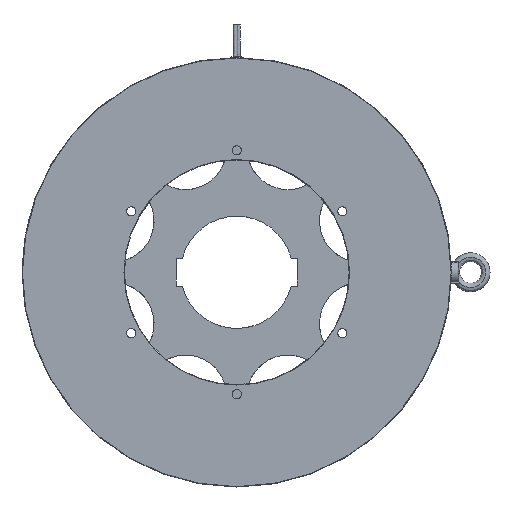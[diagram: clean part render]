
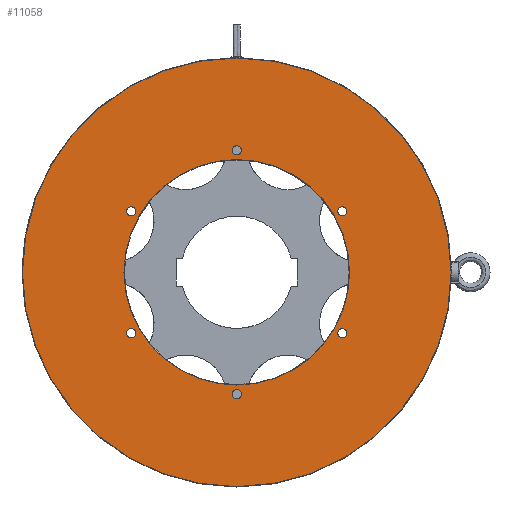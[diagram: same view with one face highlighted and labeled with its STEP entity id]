
A CAD part, left-side view. The second image highlights one B-rep face of the part: STEP entity #11058.
In plain terms, the highlighted planar face has unit normal (-1, 0, 0).
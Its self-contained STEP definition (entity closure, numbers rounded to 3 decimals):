
#164=FACE_BOUND('',#2125,.T.);
#165=FACE_BOUND('',#2126,.T.);
#166=FACE_BOUND('',#2127,.T.);
#167=FACE_BOUND('',#2128,.T.);
#168=FACE_BOUND('',#2129,.T.);
#169=FACE_BOUND('',#2130,.T.);
#170=FACE_BOUND('',#2131,.T.);
#1296=PLANE('',#11820);
#1537=FACE_OUTER_BOUND('',#2124,.T.);
#2124=EDGE_LOOP('',(#7228,#7229));
#2125=EDGE_LOOP('',(#7230));
#2126=EDGE_LOOP('',(#7231));
#2127=EDGE_LOOP('',(#7232));
#2128=EDGE_LOOP('',(#7233));
#2129=EDGE_LOOP('',(#7234));
#2130=EDGE_LOOP('',(#7235));
#2131=EDGE_LOOP('',(#7236));
#2921=CIRCLE('',#11793,130.5);
#2924=CIRCLE('',#11798,5.25);
#2925=CIRCLE('',#11800,5.25);
#2926=CIRCLE('',#11802,5.25);
#2927=CIRCLE('',#11804,5.25);
#2928=CIRCLE('',#11806,5.25);
#2929=CIRCLE('',#11808,5.25);
#2930=CIRCLE('',#11810,248.);
#2931=CIRCLE('',#11811,248.);
#4119=VERTEX_POINT('',#18414);
#4122=VERTEX_POINT('',#18424);
#4123=VERTEX_POINT('',#18428);
#4124=VERTEX_POINT('',#18432);
#4125=VERTEX_POINT('',#18436);
#4126=VERTEX_POINT('',#18440);
#4127=VERTEX_POINT('',#18444);
#4128=VERTEX_POINT('',#18448);
#4129=VERTEX_POINT('',#18449);
#5322=EDGE_CURVE('',#4119,#4119,#2921,.T.);
#5327=EDGE_CURVE('',#4122,#4122,#2924,.T.);
#5329=EDGE_CURVE('',#4123,#4123,#2925,.T.);
#5331=EDGE_CURVE('',#4124,#4124,#2926,.T.);
#5333=EDGE_CURVE('',#4125,#4125,#2927,.T.);
#5335=EDGE_CURVE('',#4126,#4126,#2928,.T.);
#5337=EDGE_CURVE('',#4127,#4127,#2929,.T.);
#5338=EDGE_CURVE('',#4128,#4129,#2930,.T.);
#5339=EDGE_CURVE('',#4129,#4128,#2931,.T.);
#7228=ORIENTED_EDGE('',*,*,#5338,.T.);
#7229=ORIENTED_EDGE('',*,*,#5339,.T.);
#7230=ORIENTED_EDGE('',*,*,#5337,.T.);
#7231=ORIENTED_EDGE('',*,*,#5335,.T.);
#7232=ORIENTED_EDGE('',*,*,#5333,.T.);
#7233=ORIENTED_EDGE('',*,*,#5331,.T.);
#7234=ORIENTED_EDGE('',*,*,#5329,.T.);
#7235=ORIENTED_EDGE('',*,*,#5327,.T.);
#7236=ORIENTED_EDGE('',*,*,#5322,.F.);
#11058=ADVANCED_FACE('',(#1537,#164,#165,#166,#167,#168,#169,#170),#1296,
 .T.);
#11793=AXIS2_PLACEMENT_3D('',#18416,#13740,#13741);
#11798=AXIS2_PLACEMENT_3D('',#18426,#13752,#13753);
#11800=AXIS2_PLACEMENT_3D('',#18430,#13757,#13758);
#11802=AXIS2_PLACEMENT_3D('',#18434,#13762,#13763);
#11804=AXIS2_PLACEMENT_3D('',#18438,#13767,#13768);
#11806=AXIS2_PLACEMENT_3D('',#18442,#13772,#13773);
#11808=AXIS2_PLACEMENT_3D('',#18446,#13777,#13778);
#11810=AXIS2_PLACEMENT_3D('',#18450,#13781,#13782);
#11811=AXIS2_PLACEMENT_3D('',#18451,#13783,#13784);
#11820=AXIS2_PLACEMENT_3D('',#18472,#13807,#13808);
#13740=DIRECTION('center_axis',(-1.,0.,0.));
#13741=DIRECTION('ref_axis',(0.,-1.,0.));
#13752=DIRECTION('center_axis',(1.,0.,0.));
#13753=DIRECTION('ref_axis',(0.,0.,
-1.));
#13757=DIRECTION('center_axis',(1.,0.,0.));
#13758=DIRECTION('ref_axis',(0.,0.,
-1.));
#13762=DIRECTION('center_axis',(1.,0.,0.));
#13763=DIRECTION('ref_axis',(0.,0.,
-1.));
#13767=DIRECTION('center_axis',(1.,0.,0.));
#13768=DIRECTION('ref_axis',(0.,0.,
-1.));
#13772=DIRECTION('center_axis',(1.,0.,0.));
#13773=DIRECTION('ref_axis',(0.,0.,
-1.));
#13777=DIRECTION('center_axis',(1.,0.,0.));
#13778=DIRECTION('ref_axis',(0.,0.,
-1.));
#13781=DIRECTION('center_axis',(-1.,0.,0.));
#13782=DIRECTION('ref_axis',(0.,1.,0.));
#13783=DIRECTION('center_axis',(-1.,0.,0.));
#13784=DIRECTION('ref_axis',(0.,1.,0.));
#13807=DIRECTION('center_axis',(-1.,0.,0.));
#13808=DIRECTION('ref_axis',(0.,0.,
1.));
#18414=CARTESIAN_POINT('',(-61.926,130.5,0.));
#18416=CARTESIAN_POINT('Origin',(-61.926,0.,
0.));
#18424=CARTESIAN_POINT('',(-61.926,122.11,75.75));
#18426=CARTESIAN_POINT('Origin',(-61.926,122.11,70.5));
#18428=CARTESIAN_POINT('',(-61.926,0.,-135.75));
#18430=CARTESIAN_POINT('Origin',(-61.926,0.,
-141.));
#18432=CARTESIAN_POINT('',(-61.926,-122.11,75.75));
#18434=CARTESIAN_POINT('Origin',(-61.926,-122.11,70.5));
#18436=CARTESIAN_POINT('',(-61.926,0.,146.25));
#18438=CARTESIAN_POINT('Origin',(-61.926,0.,
141.));
#18440=CARTESIAN_POINT('',(-61.926,-122.11,-65.25));
#18442=CARTESIAN_POINT('Origin',(-61.926,-122.11,-70.5));
#18444=CARTESIAN_POINT('',(-61.926,122.11,-65.25));
#18446=CARTESIAN_POINT('Origin',(-61.926,122.11,-70.5));
#18448=CARTESIAN_POINT('',(-61.926,248.,0.));
#18449=CARTESIAN_POINT('',(-61.926,-248.,0.));
#18450=CARTESIAN_POINT('Origin',(-61.926,0.,
0.));
#18451=CARTESIAN_POINT('Origin',(-61.926,0.,
0.));
#18472=CARTESIAN_POINT('Origin',(-61.926,189.,0.));
